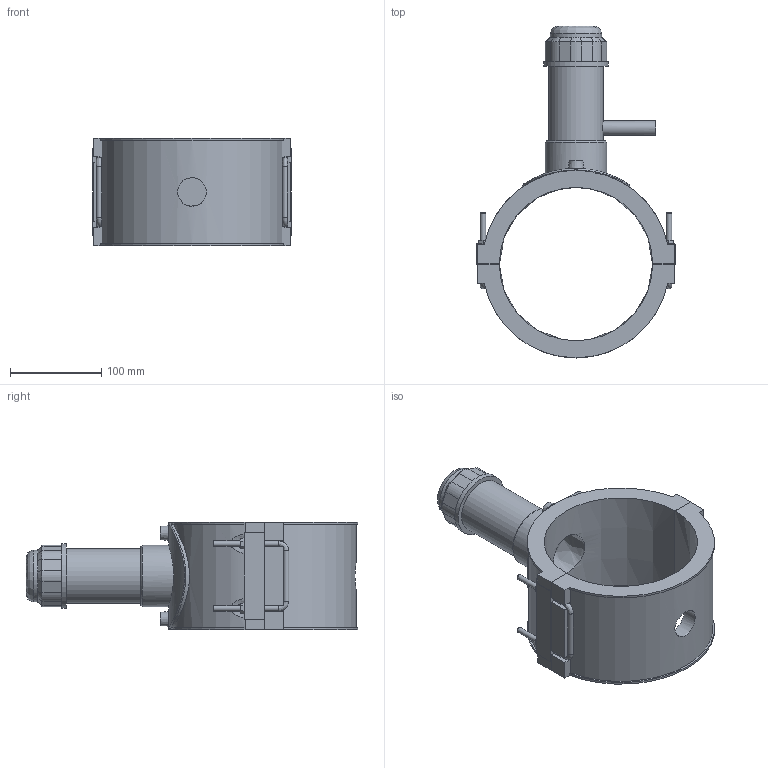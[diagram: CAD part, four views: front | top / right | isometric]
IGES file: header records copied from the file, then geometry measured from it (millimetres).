
Global section: file name: 5963BU03060005.ipt; native system: Autodesk Inventor 2019; preprocessor: unknown; author: KIM; date: 20210830.101502; units: millimetre
Bounding box: 217.9 x 363.85 x 118.11 mm (x, y, z)
Volume: 1509410.4 mm3; surface area: 247451.5 mm2
Topology: 1 solids, 1 shells, 195 faces, 507 edges, 330 vertices
Faces by surface type: plane 120, cylinder 35, revolution 20, cone 15, bspline 5
Full cylindrical faces by diameter (mm): 4 x2, 6 x10, 15.8 x1, 56.448 x1, 59.976 x1, 67.032 x1, 70.56 x1, 117.6 x1
